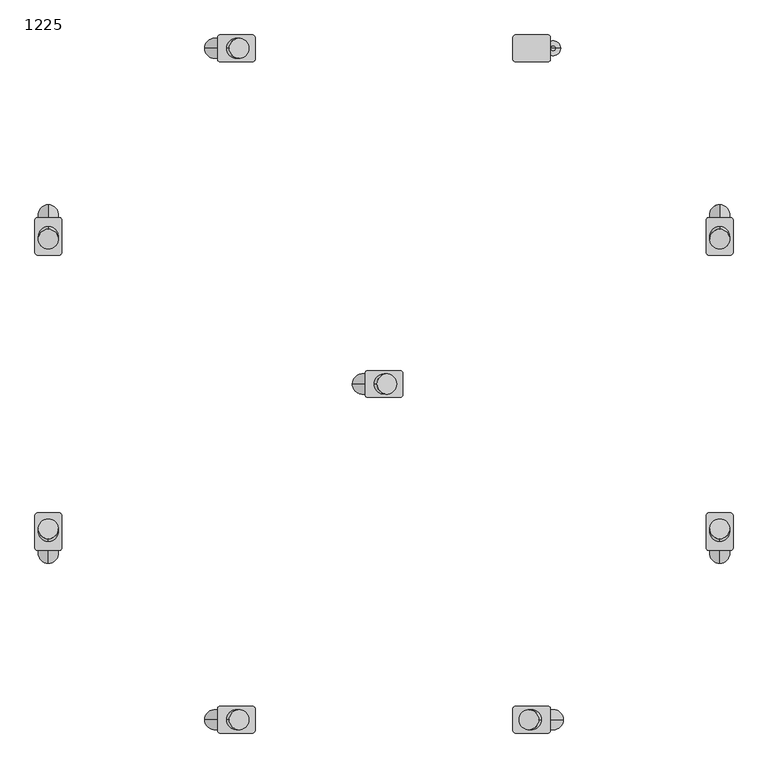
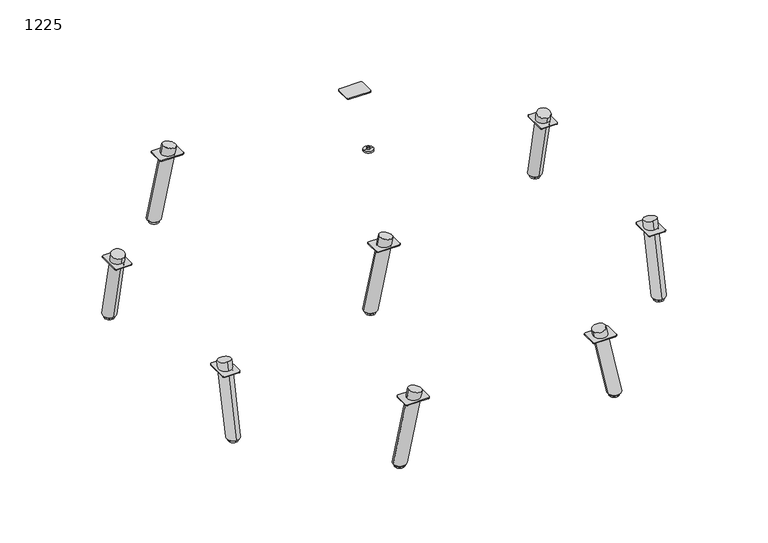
"""IFC4 building model written with IfcOpenShell, lengths in millimetres: furniture geometry, Laguna-Quattro_Backless-ERG : 1225."""

from ifc_helpers import new_model, si_unit, point, frame, frame_2d, origin, place, context, project, spatial, polyline, circle_curve, ellipse_curve, trimmed, segment, composite_curve, outline, extrude, source, transform, mapped, element, save
from ifc_brep_helpers import plane_surface, cylinder_surface, advanced_brep


def furniture_1225_1819fbd6(model_context):
    return source(origin(), model_context, "Body", "SolidModel", [
        advanced_brep(
        [(-4168.1218145, 774.9151303, 10.16), (-4207.0729912, 774.9151303, 10.16), (-4160.5866493, 774.9151303, 228.8610435), (-4123.3192258, 774.9151303, 220.9396081)],
        [
            (0, 1, ellipse_curve(frame((-4187.5974029, 774.9151303, 10.16), z_axis=(0.0, 0.0, -1.0), x_axis=(-0.9999999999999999, 0.0, 0.0)), 19.4755883, 19.05)),
            (1, 0, ellipse_curve(frame((-4187.5974029, 774.9151303, 10.16), z_axis=(0.0, 0.0, -1.0), x_axis=(-0.9999999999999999, 0.0, 0.0)), 19.4755883, 19.05)),
            (2, 3, circle_curve(frame((-4141.9529376, 774.9151303, 224.9003258), z_axis=(0.2079116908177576, 0.0, 0.9781476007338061), x_axis=(0.9781476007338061, 0.0, -0.2079116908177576)), 19.05)),
            (3, 2, circle_curve(frame((-4141.9529376, 774.9151303, 224.9003258), z_axis=(0.2079116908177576, 0.0, 0.9781476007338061), x_axis=(0.9781476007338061, 0.0, -0.2079116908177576)), 19.05)),
            (2, 1),
            (0, 3),
        ],
        [
            plane_surface(frame((-4962.2879997, 1591.847031, 10.16), z_axis=(0.0, 0.0, -1.0), x_axis=(-1.0, 0.0, 0.0))),
            plane_surface(frame((-4141.9529376, 774.9151303, 224.9003258), z_axis=(0.2079116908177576, 0.0, 0.9781476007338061), x_axis=(0.0, 1.0, 0.0))),
            cylinder_surface(frame((-4196.0827463, 774.9151303, -29.760402), z_axis=(-0.2079116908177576, 0.0, -0.9781476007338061), x_axis=(0.9781476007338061, 0.0, -0.2079116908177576)), 19.05),
        ],
        [
            (0, [[1, 2]]),
            (1, [[3, 4]]),
            (2, [[-3, 5, -1, 6]]),
            (2, [[-4, -6, -2, -5]]),
        ],
    ),
        extrude(outline(composite_curve([segment(trimmed(circle_curve(frame_2d((-4396.0253779, 1430.2351303)), 5.08), [point((-4396.0253779, 1435.3151303))], [point((-4390.9453779, 1430.2351303))], False, "CARTESIAN"), True, "CONTINUOUS"), segment(polyline([(-4390.9453779, 1430.2351303), (-4390.9453779, 1389.5951303)]), True, "CONTINUOUS"), segment(trimmed(circle_curve(frame_2d((-4396.0253779, 1389.5951303)), 5.08), [point((-4390.9453779, 1389.5951303))], [point((-4396.0253779, 1384.5151303))], False, "CARTESIAN"), True, "CONTINUOUS"), segment(polyline([(-4396.0253779, 1384.5151303), (-4456.9853779, 1384.5151303)]), True, "CONTINUOUS"), segment(trimmed(circle_curve(frame_2d((-4456.9853779, 1389.5951303)), 5.08), [point((-4456.9853779, 1384.5151303))], [point((-4462.0653779, 1389.5951303))], False, "CARTESIAN"), True, "CONTINUOUS"), segment(polyline([(-4462.0653779, 1389.5951303), (-4462.0653779, 1430.2351303)]), True, "CONTINUOUS"), segment(trimmed(circle_curve(frame_2d((-4456.9853779, 1430.2351303)), 5.08), [point((-4462.0653779, 1430.2351303))], [point((-4456.9853779, 1435.3151303))], False, "CARTESIAN"), True, "CONTINUOUS"), segment(polyline([(-4456.9853779, 1435.3151303), (-4396.0253779, 1435.3151303)]), True, "CONTINUOUS")], self_intersect=False)), frame((0.0, 0.0, 200.66), z_axis=(0.0, 0.0, 1.0), x_axis=(1.0, 0.0, 0.0)), (0.0, 0.0, 1.0), 2.54),
        extrude(outline(composite_curve([segment(polyline([(-3898.1853779, 1435.3151303), (-3837.2253779, 1435.3151303)]), True, "CONTINUOUS"), segment(trimmed(circle_curve(frame_2d((-3837.2253779, 1430.2351303)), 5.08), [point((-3837.2253779, 1435.3151303))], [point((-3832.1453779, 1430.2351303))], False, "CARTESIAN"), True, "CONTINUOUS"), segment(polyline([(-3832.1453779, 1430.2351303), (-3832.1453779, 1389.5951303)]), True, "CONTINUOUS"), segment(trimmed(circle_curve(frame_2d((-3837.2253779, 1389.5951303)), 5.08), [point((-3832.1453779, 1389.5951303))], [point((-3837.2253779, 1384.5151303))], False, "CARTESIAN"), True, "CONTINUOUS"), segment(polyline([(-3837.2253779, 1384.5151303), (-3898.1853779, 1384.5151303)]), True, "CONTINUOUS"), segment(trimmed(circle_curve(frame_2d((-3898.1853779, 1389.5951303)), 5.08), [point((-3898.1853779, 1384.5151303))], [point((-3903.2653779, 1389.5951303))], False, "CARTESIAN"), True, "CONTINUOUS"), segment(polyline([(-3903.2653779, 1389.5951303), (-3903.2653779, 1430.2351303)]), True, "CONTINUOUS"), segment(trimmed(circle_curve(frame_2d((-3898.1853779, 1430.2351303)), 5.08), [point((-3903.2653779, 1430.2351303))], [point((-3898.1853779, 1435.3151303))], False, "CARTESIAN"), True, "CONTINUOUS")], self_intersect=False)), frame((0.0, 0.0, 200.66), z_axis=(0.0, 0.0, 1.0), x_axis=(1.0, 0.0, 0.0)), (0.0, 0.0, 1.0), 2.54),
        extrude(outline(composite_curve([segment(polyline([(-4396.0253779, 114.5151303), (-4456.9853779, 114.5151303)]), True, "CONTINUOUS"), segment(trimmed(circle_curve(frame_2d((-4456.9853779, 119.5951303)), 5.08), [point((-4456.9853779, 114.5151303))], [point((-4462.0653779, 119.5951303))], False, "CARTESIAN"), True, "CONTINUOUS"), segment(polyline([(-4462.0653779, 119.5951303), (-4462.0653779, 160.2351303)]), True, "CONTINUOUS"), segment(trimmed(circle_curve(frame_2d((-4456.9853779, 160.2351303)), 5.08), [point((-4462.0653779, 160.2351303))], [point((-4456.9853779, 165.3151303))], False, "CARTESIAN"), True, "CONTINUOUS"), segment(polyline([(-4456.9853779, 165.3151303), (-4396.0253779, 165.3151303)]), True, "CONTINUOUS"), segment(trimmed(circle_curve(frame_2d((-4396.0253779, 160.2351303)), 5.08), [point((-4396.0253779, 165.3151303))], [point((-4390.9453779, 160.2351303))], False, "CARTESIAN"), True, "CONTINUOUS"), segment(polyline([(-4390.9453779, 160.2351303), (-4390.9453779, 119.5951303)]), True, "CONTINUOUS"), segment(trimmed(circle_curve(frame_2d((-4396.0253779, 119.5951303)), 5.08), [point((-4390.9453779, 119.5951303))], [point((-4396.0253779, 114.5151303))], False, "CARTESIAN"), True, "CONTINUOUS")], self_intersect=False)), frame((0.0, 0.0, 200.66), z_axis=(0.0, 0.0, 1.0), x_axis=(1.0, 0.0, 0.0)), (0.0, 0.0, 1.0), 2.54),
        extrude(outline(composite_curve([segment(trimmed(circle_curve(frame_2d((-3898.1853779, 119.5951303)), 5.08), [point((-3898.1853779, 114.5151303))], [point((-3903.2653779, 119.5951303))], False, "CARTESIAN"), True, "CONTINUOUS"), segment(polyline([(-3903.2653779, 119.5951303), (-3903.2653779, 160.2351303)]), True, "CONTINUOUS"), segment(trimmed(circle_curve(frame_2d((-3898.1853779, 160.2351303)), 5.08), [point((-3903.2653779, 160.2351303))], [point((-3898.1853779, 165.3151303))], False, "CARTESIAN"), True, "CONTINUOUS"), segment(polyline([(-3898.1853779, 165.3151303), (-3837.2253779, 165.3151303)]), True, "CONTINUOUS"), segment(trimmed(circle_curve(frame_2d((-3837.2253779, 160.2351303)), 5.08), [point((-3837.2253779, 165.3151303))], [point((-3832.1453779, 160.2351303))], False, "CARTESIAN"), True, "CONTINUOUS"), segment(polyline([(-3832.1453779, 160.2351303), (-3832.1453779, 119.5951303)]), True, "CONTINUOUS"), segment(trimmed(circle_curve(frame_2d((-3837.2253779, 119.5951303)), 5.08), [point((-3832.1453779, 119.5951303))], [point((-3837.2253779, 114.5151303))], False, "CARTESIAN"), True, "CONTINUOUS"), segment(polyline([(-3837.2253779, 114.5151303), (-3898.1853779, 114.5151303)]), True, "CONTINUOUS")], self_intersect=False)), frame((0.0, 0.0, 200.66), z_axis=(0.0, 0.0, 1.0), x_axis=(1.0, 0.0, 0.0)), (0.0, 0.0, 1.0), 2.54),
        extrude(outline(composite_curve([segment(trimmed(circle_curve(frame_2d((-3491.7853779, 1023.8351303)), 5.08), [point((-3486.7053779, 1023.8351303))], [point((-3491.7853779, 1018.7551303))], False, "CARTESIAN"), True, "CONTINUOUS"), segment(polyline([(-3491.7853779, 1018.7551303), (-3532.4253779, 1018.7551303)]), True, "CONTINUOUS"), segment(trimmed(circle_curve(frame_2d((-3532.4253779, 1023.8351303)), 5.08), [point((-3532.4253779, 1018.7551303))], [point((-3537.5053779, 1023.8351303))], False, "CARTESIAN"), True, "CONTINUOUS"), segment(polyline([(-3537.5053779, 1023.8351303), (-3537.5053779, 1084.7951303)]), True, "CONTINUOUS"), segment(trimmed(circle_curve(frame_2d((-3532.4253779, 1084.7951303)), 5.08), [point((-3537.5053779, 1084.7951303))], [point((-3532.4253779, 1089.8751303))], False, "CARTESIAN"), True, "CONTINUOUS"), segment(polyline([(-3532.4253779, 1089.8751303), (-3491.7853779, 1089.8751303)]), True, "CONTINUOUS"), segment(trimmed(circle_curve(frame_2d((-3491.7853779, 1084.7951303)), 5.08), [point((-3491.7853779, 1089.8751303))], [point((-3486.7053779, 1084.7951303))], False, "CARTESIAN"), True, "CONTINUOUS"), segment(polyline([(-3486.7053779, 1084.7951303), (-3486.7053779, 1023.8351303)]), True, "CONTINUOUS")], self_intersect=False)), frame((0.0, 0.0, 200.66), z_axis=(0.0, 0.0, 1.0), x_axis=(1.0, 0.0, 0.0)), (0.0, 0.0, 1.0), 2.54),
        extrude(outline(composite_curve([segment(polyline([(-3486.7053779, 525.9951303), (-3486.7053779, 465.0351303)]), True, "CONTINUOUS"), segment(trimmed(circle_curve(frame_2d((-3491.7853779, 465.0351303)), 5.08), [point((-3486.7053779, 465.0351303))], [point((-3491.7853779, 459.9551303))], False, "CARTESIAN"), True, "CONTINUOUS"), segment(polyline([(-3491.7853779, 459.9551303), (-3532.4253779, 459.9551303)]), True, "CONTINUOUS"), segment(trimmed(circle_curve(frame_2d((-3532.4253779, 465.0351303)), 5.08), [point((-3532.4253779, 459.9551303))], [point((-3537.5053779, 465.0351303))], False, "CARTESIAN"), True, "CONTINUOUS"), segment(polyline([(-3537.5053779, 465.0351303), (-3537.5053779, 525.9951303)]), True, "CONTINUOUS"), segment(trimmed(circle_curve(frame_2d((-3532.4253779, 525.9951303)), 5.08), [point((-3537.5053779, 525.9951303))], [point((-3532.4253779, 531.0751303))], False, "CARTESIAN"), True, "CONTINUOUS"), segment(polyline([(-3532.4253779, 531.0751303), (-3491.7853779, 531.0751303)]), True, "CONTINUOUS"), segment(trimmed(circle_curve(frame_2d((-3491.7853779, 525.9951303)), 5.08), [point((-3491.7853779, 531.0751303))], [point((-3486.7053779, 525.9951303))], False, "CARTESIAN"), True, "CONTINUOUS")], self_intersect=False)), frame((0.0, 0.0, 200.66), z_axis=(0.0, 0.0, 1.0), x_axis=(1.0, 0.0, 0.0)), (0.0, 0.0, 1.0), 2.54),
        extrude(outline(composite_curve([segment(polyline([(-4807.5053779, 1023.8351303), (-4807.5053779, 1084.7951303)]), True, "CONTINUOUS"), segment(trimmed(circle_curve(frame_2d((-4802.4253779, 1084.7951303)), 5.08), [point((-4807.5053779, 1084.7951303))], [point((-4802.4253779, 1089.8751303))], False, "CARTESIAN"), True, "CONTINUOUS"), segment(polyline([(-4802.4253779, 1089.8751303), (-4761.7853779, 1089.8751303)]), True, "CONTINUOUS"), segment(trimmed(circle_curve(frame_2d((-4761.7853779, 1084.7951303)), 5.08), [point((-4761.7853779, 1089.8751303))], [point((-4756.7053779, 1084.7951303))], False, "CARTESIAN"), True, "CONTINUOUS"), segment(polyline([(-4756.7053779, 1084.7951303), (-4756.7053779, 1023.8351303)]), True, "CONTINUOUS"), segment(trimmed(circle_curve(frame_2d((-4761.7853779, 1023.8351303)), 5.08), [point((-4756.7053779, 1023.8351303))], [point((-4761.7853779, 1018.7551303))], False, "CARTESIAN"), True, "CONTINUOUS"), segment(polyline([(-4761.7853779, 1018.7551303), (-4802.4253779, 1018.7551303)]), True, "CONTINUOUS"), segment(trimmed(circle_curve(frame_2d((-4802.4253779, 1023.8351303)), 5.08), [point((-4802.4253779, 1018.7551303))], [point((-4807.5053779, 1023.8351303))], False, "CARTESIAN"), True, "CONTINUOUS")], self_intersect=False)), frame((0.0, 0.0, 200.66), z_axis=(0.0, 0.0, 1.0), x_axis=(1.0, 0.0, 0.0)), (0.0, 0.0, 1.0), 2.54),
        extrude(outline(composite_curve([segment(trimmed(circle_curve(frame_2d((-4802.4253779, 525.9951303)), 5.08), [point((-4807.5053779, 525.9951303))], [point((-4802.4253779, 531.0751303))], False, "CARTESIAN"), True, "CONTINUOUS"), segment(polyline([(-4802.4253779, 531.0751303), (-4761.7853779, 531.0751303)]), True, "CONTINUOUS"), segment(trimmed(circle_curve(frame_2d((-4761.7853779, 525.9951303)), 5.08), [point((-4761.7853779, 531.0751303))], [point((-4756.7053779, 525.9951303))], False, "CARTESIAN"), True, "CONTINUOUS"), segment(polyline([(-4756.7053779, 525.9951303), (-4756.7053779, 465.0351303)]), True, "CONTINUOUS"), segment(trimmed(circle_curve(frame_2d((-4761.7853779, 465.0351303)), 5.08), [point((-4756.7053779, 465.0351303))], [point((-4761.7853779, 459.9551303))], False, "CARTESIAN"), True, "CONTINUOUS"), segment(polyline([(-4761.7853779, 459.9551303), (-4802.4253779, 459.9551303)]), True, "CONTINUOUS"), segment(trimmed(circle_curve(frame_2d((-4802.4253779, 465.0351303)), 5.08), [point((-4802.4253779, 459.9551303))], [point((-4807.5053779, 465.0351303))], False, "CARTESIAN"), True, "CONTINUOUS"), segment(polyline([(-4807.5053779, 465.0351303), (-4807.5053779, 525.9951303)]), True, "CONTINUOUS")], self_intersect=False)), frame((0.0, 0.0, 200.66), z_axis=(0.0, 0.0, 1.0), x_axis=(1.0, 0.0, 0.0)), (0.0, 0.0, 1.0), 2.54),
        extrude(outline(composite_curve([segment(trimmed(circle_curve(frame_2d((-4116.6253779, 795.2351303)), 5.08), [point((-4116.6253779, 800.3151303))], [point((-4111.5453779, 795.2351303))], False, "CARTESIAN"), True, "CONTINUOUS"), segment(polyline([(-4111.5453779, 795.2351303), (-4111.5453779, 754.5951303)]), True, "CONTINUOUS"), segment(trimmed(circle_curve(frame_2d((-4116.6253779, 754.5951303)), 5.08), [point((-4111.5453779, 754.5951303))], [point((-4116.6253779, 749.5151303))], False, "CARTESIAN"), True, "CONTINUOUS"), segment(polyline([(-4116.6253779, 749.5151303), (-4177.5853779, 749.5151303)]), True, "CONTINUOUS"), segment(trimmed(circle_curve(frame_2d((-4177.5853779, 754.5951303)), 5.08), [point((-4177.5853779, 749.5151303))], [point((-4182.6653779, 754.5951303))], False, "CARTESIAN"), True, "CONTINUOUS"), segment(polyline([(-4182.6653779, 754.5951303), (-4182.6653779, 795.2351303)]), True, "CONTINUOUS"), segment(trimmed(circle_curve(frame_2d((-4177.5853779, 795.2351303)), 5.08), [point((-4182.6653779, 795.2351303))], [point((-4177.5853779, 800.3151303))], False, "CARTESIAN"), True, "CONTINUOUS"), segment(polyline([(-4177.5853779, 800.3151303), (-4116.6253779, 800.3151303)]), True, "CONTINUOUS")], self_intersect=False)), frame((0.0, 0.0, 200.66), z_axis=(0.0, 0.0, 1.0), x_axis=(1.0, 0.0, 0.0)), (0.0, 0.0, 1.0), 2.54),
        advanced_brep(
        [(-4187.5974029, 774.9151303, 10.16), (-4187.5974029, 779.1581785, 10.16), (-4187.5974029, 770.6720822, 10.16), (-4187.5974029, 760.8367769, 0.0), (-4187.5974029, 788.9934838, 0.0), (-4187.5974029, 774.9151303, 0.0), (-4187.5974029, 760.8367769, 3.9615026), (-4187.5974029, 788.9934838, 3.9615026), (-4187.5974029, 770.6720822, 3.9615026), (-4187.5974029, 779.1581785, 3.9615026)],
        [
            (0, 1),
            (1, 2, circle_curve(frame((-4187.5974029, 774.9151303, 10.16), z_axis=(0.0, 0.0, 1.0), x_axis=(0.0, 1.0, 0.0)), 4.2430482)),
            (2, 0),
            (2, 1, circle_curve(frame((-4187.5974029, 774.9151303, 10.16), z_axis=(0.0, 0.0, 1.0), x_axis=(0.0, 1.0, 0.0)), 4.2430482)),
            (3, 4, circle_curve(frame((-4187.5974029, 774.9151303, 0.0), z_axis=(0.0, 0.0, -1.0), x_axis=(0.0, 1.0, 0.0)), 14.0783534)),
            (4, 5),
            (5, 3),
            (4, 3, circle_curve(frame((-4187.5974029, 774.9151303, 0.0), z_axis=(0.0, 0.0, -1.0), x_axis=(0.0, 1.0, 0.0)), 14.0783534)),
            (6, 7, circle_curve(frame((-4187.5974029, 774.9151303, 3.9615026), z_axis=(0.0, 0.0, -1.0), x_axis=(0.0, 1.0, 0.0)), 14.0783534)),
            (7, 4),
            (3, 6),
            (7, 6, circle_curve(frame((-4187.5974029, 774.9151303, 3.9615026), z_axis=(0.0, 0.0, -1.0), x_axis=(0.0, 1.0, 0.0)), 14.0783534)),
            (8, 9, circle_curve(frame((-4187.5974029, 774.9151303, 3.9615026), z_axis=(0.0, 0.0, -1.0), x_axis=(0.0, 1.0, 0.0)), 4.2430482)),
            (9, 7),
            (6, 8),
            (9, 8, circle_curve(frame((-4187.5974029, 774.9151303, 3.9615026), z_axis=(0.0, 0.0, -1.0), x_axis=(0.0, 1.0, 0.0)), 4.2430482)),
            (1, 9),
            (8, 2),
        ],
        [
            plane_surface(frame((-4187.5974029, 774.9151303, 10.16), z_axis=(0.0, 0.0, 1.0), x_axis=(0.0, 1.0, 0.0))),
            plane_surface(frame((-4187.5974029, 774.9151303, 0.0), z_axis=(0.0, 0.0, -1.0), x_axis=(0.0, 1.0, 0.0))),
            cylinder_surface(frame((-4187.5974029, 774.9151303, 10.16), z_axis=(0.0, 0.0, 1.0), x_axis=(0.0, 1.0, 0.0)), 14.0783534),
            plane_surface(frame((-4187.5974029, 774.9151303, 3.9615026), z_axis=(0.0, 0.0, 1.0), x_axis=(0.0, 1.0, 0.0))),
            cylinder_surface(frame((-4187.5974029, 774.9151303, 10.16), z_axis=(0.0, 0.0, 1.0), x_axis=(0.0, 1.0, 0.0)), 4.2430482),
        ],
        [
            (0, [[1, 2, 3]]),
            (0, [[-3, 4, -1]]),
            (1, [[5, 6, 7]]),
            (1, [[8, -7, -6]]),
            (2, [[9, 10, -5, 11]]),
            (2, [[12, -11, -8, -10]]),
            (3, [[13, 14, -9, 15]]),
            (3, [[16, -15, -12, -14]]),
            (4, [[-2, 17, -13, 18]]),
            (4, [[-4, -18, -16, -17]]),
        ],
    ),
        advanced_brep(
        [(-4782.1053779, 1094.8071553, 10.16), (-4782.1053779, 1090.5641072, 10.16), (-4782.1053779, 1099.0502035, 10.16), (-4782.1053779, 1108.8855088, 0.0), (-4782.1053779, 1080.7288019, 0.0), (-4782.1053779, 1094.8071553, 0.0), (-4782.1053779, 1108.8855088, 3.9615026), (-4782.1053779, 1080.7288019, 3.9615026), (-4782.1053779, 1099.0502035, 3.9615026), (-4782.1053779, 1090.5641072, 3.9615026)],
        [
            (0, 1),
            (1, 2, circle_curve(frame((-4782.1053779, 1094.8071553, 10.16), z_axis=(0.0, 0.0, 1.0), x_axis=(0.0, -1.0, 0.0)), 4.2430482)),
            (2, 0),
            (2, 1, circle_curve(frame((-4782.1053779, 1094.8071553, 10.16), z_axis=(0.0, 0.0, 1.0), x_axis=(0.0, -1.0, 0.0)), 4.2430482)),
            (3, 4, circle_curve(frame((-4782.1053779, 1094.8071553, 0.0), z_axis=(0.0, 0.0, -1.0), x_axis=(0.0, -1.0, 0.0)), 14.0783534)),
            (4, 5),
            (5, 3),
            (4, 3, circle_curve(frame((-4782.1053779, 1094.8071553, 0.0), z_axis=(0.0, 0.0, -1.0), x_axis=(0.0, -1.0, 0.0)), 14.0783534)),
            (6, 7, circle_curve(frame((-4782.1053779, 1094.8071553, 3.9615026), z_axis=(0.0, 0.0, -1.0), x_axis=(0.0, -1.0, 0.0)), 14.0783534)),
            (7, 4),
            (3, 6),
            (7, 6, circle_curve(frame((-4782.1053779, 1094.8071553, 3.9615026), z_axis=(0.0, 0.0, -1.0), x_axis=(0.0, -1.0, 0.0)), 14.0783534)),
            (8, 9, circle_curve(frame((-4782.1053779, 1094.8071553, 3.9615026), z_axis=(0.0, 0.0, -1.0), x_axis=(0.0, -1.0, 0.0)), 4.2430482)),
            (9, 7),
            (6, 8),
            (9, 8, circle_curve(frame((-4782.1053779, 1094.8071553, 3.9615026), z_axis=(0.0, 0.0, -1.0), x_axis=(0.0, -1.0, 0.0)), 4.2430482)),
            (1, 9),
            (8, 2),
        ],
        [
            plane_surface(frame((-4782.1053779, 1094.8071553, 10.16), z_axis=(0.0, 0.0, 1.0), x_axis=(0.0, -1.0, 0.0))),
            plane_surface(frame((-4782.1053779, 1094.8071553, 0.0), z_axis=(0.0, 0.0, -1.0), x_axis=(0.0, -1.0, 0.0))),
            cylinder_surface(frame((-4782.1053779, 1094.8071553, 10.16), z_axis=(0.0, 0.0, 1.0), x_axis=(0.0, -1.0, 0.0)), 14.0783534),
            plane_surface(frame((-4782.1053779, 1094.8071553, 3.9615026), z_axis=(0.0, 0.0, 1.0), x_axis=(0.0, -1.0, 0.0))),
            cylinder_surface(frame((-4782.1053779, 1094.8071553, 10.16), z_axis=(0.0, 0.0, 1.0), x_axis=(0.0, -1.0, 0.0)), 4.2430482),
        ],
        [
            (0, [[1, 2, 3]]),
            (0, [[-3, 4, -1]]),
            (1, [[5, 6, 7]]),
            (1, [[8, -7, -6]]),
            (2, [[9, 10, -5, 11]]),
            (2, [[12, -11, -8, -10]]),
            (3, [[13, 14, -9, 15]]),
            (3, [[16, -15, -12, -14]]),
            (4, [[-2, 17, -13, 18]]),
            (4, [[-4, -18, -16, -17]]),
        ],
    ),
        advanced_brep(
        [(-4782.1053779, 450.7800572, 10.16), (-4782.1053779, 459.2661535, 10.16), (-4782.1053779, 455.0231053, 10.16), (-4782.1053779, 455.0231053, 0.0), (-4782.1053779, 469.1014588, 0.0), (-4782.1053779, 440.9447519, 0.0), (-4782.1053779, 469.1014588, 3.9615026), (-4782.1053779, 440.9447519, 3.9615026), (-4782.1053779, 459.2661535, 3.9615026), (-4782.1053779, 450.7800572, 3.9615026)],
        [
            (0, 1, circle_curve(frame((-4782.1053779, 455.0231053, 10.16), z_axis=(0.0, 0.0, 1.0), x_axis=(0.0, 1.0, 0.0)), 4.2430482)),
            (1, 2),
            (2, 0),
            (1, 0, circle_curve(frame((-4782.1053779, 455.0231053, 10.16), z_axis=(0.0, 0.0, 1.0), x_axis=(0.0, 1.0, 0.0)), 4.2430482)),
            (3, 4),
            (4, 5, circle_curve(frame((-4782.1053779, 455.0231053, 0.0), z_axis=(0.0, 0.0, -1.0), x_axis=(0.0, 1.0, 0.0)), 14.0783534)),
            (5, 3),
            (5, 4, circle_curve(frame((-4782.1053779, 455.0231053, 0.0), z_axis=(0.0, 0.0, -1.0), x_axis=(0.0, 1.0, 0.0)), 14.0783534)),
            (4, 6),
            (6, 7, circle_curve(frame((-4782.1053779, 455.0231053, 3.9615026), z_axis=(0.0, 0.0, -1.0), x_axis=(0.0, 1.0, 0.0)), 14.0783534)),
            (7, 5),
            (7, 6, circle_curve(frame((-4782.1053779, 455.0231053, 3.9615026), z_axis=(0.0, 0.0, -1.0), x_axis=(0.0, 1.0, 0.0)), 14.0783534)),
            (6, 8),
            (8, 9, circle_curve(frame((-4782.1053779, 455.0231053, 3.9615026), z_axis=(0.0, 0.0, -1.0), x_axis=(0.0, 1.0, 0.0)), 4.2430482)),
            (9, 7),
            (9, 8, circle_curve(frame((-4782.1053779, 455.0231053, 3.9615026), z_axis=(0.0, 0.0, -1.0), x_axis=(0.0, 1.0, 0.0)), 4.2430482)),
            (8, 1),
            (0, 9),
        ],
        [
            plane_surface(frame((-4782.1053779, 455.0231053, 10.16), z_axis=(0.0, 0.0, 1.0), x_axis=(0.0, 1.0, 0.0))),
            plane_surface(frame((-4782.1053779, 455.0231053, 0.0), z_axis=(0.0, 0.0, -1.0), x_axis=(0.0, 1.0, 0.0))),
            cylinder_surface(frame((-4782.1053779, 455.0231053, 10.16), z_axis=(0.0, 0.0, -1.0), x_axis=(0.0, 1.0, 0.0)), 14.0783534),
            plane_surface(frame((-4782.1053779, 455.0231053, 3.9615026), z_axis=(0.0, 0.0, 1.0), x_axis=(0.0, 1.0, 0.0))),
            cylinder_surface(frame((-4782.1053779, 455.0231053, 10.16), z_axis=(0.0, 0.0, -1.0), x_axis=(0.0, 1.0, 0.0)), 4.2430482),
        ],
        [
            (0, [[1, 2, 3]]),
            (0, [[4, -3, -2]]),
            (1, [[5, 6, 7]]),
            (1, [[-7, 8, -5]]),
            (2, [[-6, 9, 10, 11]]),
            (2, [[-8, -11, 12, -9]]),
            (3, [[-10, 13, 14, 15]]),
            (3, [[-12, -15, 16, -13]]),
            (4, [[-14, 17, -1, 18]]),
            (4, [[-16, -18, -4, -17]]),
        ],
    ),
        advanced_brep(
        [(-3512.1053779, 1099.0502035, 10.16), (-3512.1053779, 1090.5641072, 10.16), (-3512.1053779, 1094.8071553, 10.16), (-3512.1053779, 1094.8071553, 0.0), (-3512.1053779, 1080.7288019, 0.0), (-3512.1053779, 1108.8855088, 0.0), (-3512.1053779, 1080.7288019, 3.9615026), (-3512.1053779, 1108.8855088, 3.9615026), (-3512.1053779, 1090.5641072, 3.9615026), (-3512.1053779, 1099.0502035, 3.9615026)],
        [
            (0, 1, circle_curve(frame((-3512.1053779, 1094.8071553, 10.16), z_axis=(0.0, 0.0, 1.0), x_axis=(0.0, -1.0, 0.0)), 4.2430482)),
            (1, 2),
            (2, 0),
            (1, 0, circle_curve(frame((-3512.1053779, 1094.8071553, 10.16), z_axis=(0.0, 0.0, 1.0), x_axis=(0.0, -1.0, 0.0)), 4.2430482)),
            (3, 4),
            (4, 5, circle_curve(frame((-3512.1053779, 1094.8071553, 0.0), z_axis=(0.0, 0.0, -1.0), x_axis=(0.0, -1.0, 0.0)), 14.0783534)),
            (5, 3),
            (5, 4, circle_curve(frame((-3512.1053779, 1094.8071553, 0.0), z_axis=(0.0, 0.0, -1.0), x_axis=(0.0, -1.0, 0.0)), 14.0783534)),
            (4, 6),
            (6, 7, circle_curve(frame((-3512.1053779, 1094.8071553, 3.9615026), z_axis=(0.0, 0.0, -1.0), x_axis=(0.0, -1.0, 0.0)), 14.0783534)),
            (7, 5),
            (7, 6, circle_curve(frame((-3512.1053779, 1094.8071553, 3.9615026), z_axis=(0.0, 0.0, -1.0), x_axis=(0.0, -1.0, 0.0)), 14.0783534)),
            (6, 8),
            (8, 9, circle_curve(frame((-3512.1053779, 1094.8071553, 3.9615026), z_axis=(0.0, 0.0, -1.0), x_axis=(0.0, -1.0, 0.0)), 4.2430482)),
            (9, 7),
            (9, 8, circle_curve(frame((-3512.1053779, 1094.8071553, 3.9615026), z_axis=(0.0, 0.0, -1.0), x_axis=(0.0, -1.0, 0.0)), 4.2430482)),
            (8, 1),
            (0, 9),
        ],
        [
            plane_surface(frame((-3512.1053779, 1094.8071553, 10.16), z_axis=(0.0, 0.0, 1.0), x_axis=(0.0, -1.0, 0.0))),
            plane_surface(frame((-3512.1053779, 1094.8071553, 0.0), z_axis=(0.0, 0.0, -1.0), x_axis=(0.0, -1.0, 0.0))),
            cylinder_surface(frame((-3512.1053779, 1094.8071553, 10.16), z_axis=(0.0, 0.0, -1.0), x_axis=(0.0, -1.0, 0.0)), 14.0783534),
            plane_surface(frame((-3512.1053779, 1094.8071553, 3.9615026), z_axis=(0.0, 0.0, 1.0), x_axis=(0.0, -1.0, 0.0))),
            cylinder_surface(frame((-3512.1053779, 1094.8071553, 10.16), z_axis=(0.0, 0.0, -1.0), x_axis=(0.0, -1.0, 0.0)), 4.2430482),
        ],
        [
            (0, [[1, 2, 3]]),
            (0, [[4, -3, -2]]),
            (1, [[5, 6, 7]]),
            (1, [[-7, 8, -5]]),
            (2, [[-6, 9, 10, 11]]),
            (2, [[-8, -11, 12, -9]]),
            (3, [[-10, 13, 14, 15]]),
            (3, [[-12, -15, 16, -13]]),
            (4, [[-14, 17, -1, 18]]),
            (4, [[-16, -18, -4, -17]]),
        ],
    ),
        advanced_brep(
        [(-3512.1053779, 455.0231053, 10.16), (-3512.1053779, 459.2661535, 10.16), (-3512.1053779, 450.7800572, 10.16), (-3512.1053779, 440.9447519, 0.0), (-3512.1053779, 469.1014588, 0.0), (-3512.1053779, 455.0231053, 0.0), (-3512.1053779, 440.9447519, 3.9615026), (-3512.1053779, 469.1014588, 3.9615026), (-3512.1053779, 450.7800572, 3.9615026), (-3512.1053779, 459.2661535, 3.9615026)],
        [
            (0, 1),
            (1, 2, circle_curve(frame((-3512.1053779, 455.0231053, 10.16), z_axis=(0.0, 0.0, 1.0), x_axis=(0.0, 1.0, 0.0)), 4.2430482)),
            (2, 0),
            (2, 1, circle_curve(frame((-3512.1053779, 455.0231053, 10.16), z_axis=(0.0, 0.0, 1.0), x_axis=(0.0, 1.0, 0.0)), 4.2430482)),
            (3, 4, circle_curve(frame((-3512.1053779, 455.0231053, 0.0), z_axis=(0.0, 0.0, -1.0), x_axis=(0.0, 1.0, 0.0)), 14.0783534)),
            (4, 5),
            (5, 3),
            (4, 3, circle_curve(frame((-3512.1053779, 455.0231053, 0.0), z_axis=(0.0, 0.0, -1.0), x_axis=(0.0, 1.0, 0.0)), 14.0783534)),
            (6, 7, circle_curve(frame((-3512.1053779, 455.0231053, 3.9615026), z_axis=(0.0, 0.0, -1.0), x_axis=(0.0, 1.0, 0.0)), 14.0783534)),
            (7, 4),
            (3, 6),
            (7, 6, circle_curve(frame((-3512.1053779, 455.0231053, 3.9615026), z_axis=(0.0, 0.0, -1.0), x_axis=(0.0, 1.0, 0.0)), 14.0783534)),
            (8, 9, circle_curve(frame((-3512.1053779, 455.0231053, 3.9615026), z_axis=(0.0, 0.0, -1.0), x_axis=(0.0, 1.0, 0.0)), 4.2430482)),
            (9, 7),
            (6, 8),
            (9, 8, circle_curve(frame((-3512.1053779, 455.0231053, 3.9615026), z_axis=(0.0, 0.0, -1.0), x_axis=(0.0, 1.0, 0.0)), 4.2430482)),
            (1, 9),
            (8, 2),
        ],
        [
            plane_surface(frame((-3512.1053779, 455.0231053, 10.16), z_axis=(0.0, 0.0, 1.0), x_axis=(0.0, 1.0, 0.0))),
            plane_surface(frame((-3512.1053779, 455.0231053, 0.0), z_axis=(0.0, 0.0, -1.0), x_axis=(0.0, 1.0, 0.0))),
            cylinder_surface(frame((-3512.1053779, 455.0231053, 10.16), z_axis=(0.0, 0.0, 1.0), x_axis=(0.0, 1.0, 0.0)), 14.0783534),
            plane_surface(frame((-3512.1053779, 455.0231053, 3.9615026), z_axis=(0.0, 0.0, 1.0), x_axis=(0.0, 1.0, 0.0))),
            cylinder_surface(frame((-3512.1053779, 455.0231053, 10.16), z_axis=(0.0, 0.0, 1.0), x_axis=(0.0, 1.0, 0.0)), 4.2430482),
        ],
        [
            (0, [[1, 2, 3]]),
            (0, [[-3, 4, -1]]),
            (1, [[5, 6, 7]]),
            (1, [[8, -7, -6]]),
            (2, [[9, 10, -5, 11]]),
            (2, [[12, -11, -8, -10]]),
            (3, [[13, 14, -9, 15]]),
            (3, [[16, -15, -12, -14]]),
            (4, [[-2, 17, -13, 18]]),
            (4, [[-4, -18, -16, -17]]),
        ],
    ),
        advanced_brep(
        [(-4466.9974029, 139.9151303, 10.16), (-4462.7543547, 139.9151303, 10.16), (-4471.240451, 139.9151303, 10.16), (-4481.0757563, 139.9151303, 0.0), (-4452.9190494, 139.9151303, 0.0), (-4466.9974029, 139.9151303, 0.0), (-4481.0757563, 139.9151303, 3.9615026), (-4452.9190494, 139.9151303, 3.9615026), (-4471.240451, 139.9151303, 3.9615026), (-4462.7543547, 139.9151303, 3.9615026)],
        [
            (0, 1),
            (1, 2, circle_curve(frame((-4466.9974029, 139.9151303, 10.16), z_axis=(0.0, 0.0, 1.0), x_axis=(1.0, 0.0, 0.0)), 4.2430482)),
            (2, 0),
            (2, 1, circle_curve(frame((-4466.9974029, 139.9151303, 10.16), z_axis=(0.0, 0.0, 1.0), x_axis=(1.0, 0.0, 0.0)), 4.2430482)),
            (3, 4, circle_curve(frame((-4466.9974029, 139.9151303, 0.0), z_axis=(0.0, 0.0, -1.0), x_axis=(1.0, 0.0, 0.0)), 14.0783534)),
            (4, 5),
            (5, 3),
            (4, 3, circle_curve(frame((-4466.9974029, 139.9151303, 0.0), z_axis=(0.0, 0.0, -1.0), x_axis=(1.0, 0.0, 0.0)), 14.0783534)),
            (6, 7, circle_curve(frame((-4466.9974029, 139.9151303, 3.9615026), z_axis=(0.0, 0.0, -1.0), x_axis=(1.0, 0.0, 0.0)), 14.0783534)),
            (7, 4),
            (3, 6),
            (7, 6, circle_curve(frame((-4466.9974029, 139.9151303, 3.9615026), z_axis=(0.0, 0.0, -1.0), x_axis=(1.0, 0.0, 0.0)), 14.0783534)),
            (8, 9, circle_curve(frame((-4466.9974029, 139.9151303, 3.9615026), z_axis=(0.0, 0.0, -1.0), x_axis=(1.0, 0.0, 0.0)), 4.2430482)),
            (9, 7),
            (6, 8),
            (9, 8, circle_curve(frame((-4466.9974029, 139.9151303, 3.9615026), z_axis=(0.0, 0.0, -1.0), x_axis=(1.0, 0.0, 0.0)), 4.2430482)),
            (1, 9),
            (8, 2),
        ],
        [
            plane_surface(frame((-4466.9974029, 139.9151303, 10.16), z_axis=(0.0, 0.0, 1.0), x_axis=(1.0, 0.0, 0.0))),
            plane_surface(frame((-4466.9974029, 139.9151303, 0.0), z_axis=(0.0, 0.0, -1.0), x_axis=(1.0, 0.0, 0.0))),
            cylinder_surface(frame((-4466.9974029, 139.9151303, 10.16), z_axis=(0.0, 0.0, 1.0), x_axis=(1.0, 0.0, 0.0)), 14.0783534),
            plane_surface(frame((-4466.9974029, 139.9151303, 3.9615026), z_axis=(0.0, 0.0, 1.0), x_axis=(1.0, 0.0, 0.0))),
            cylinder_surface(frame((-4466.9974029, 139.9151303, 10.16), z_axis=(0.0, 0.0, 1.0), x_axis=(1.0, 0.0, 0.0)), 4.2430482),
        ],
        [
            (0, [[1, 2, 3]]),
            (0, [[-3, 4, -1]]),
            (1, [[5, 6, 7]]),
            (1, [[8, -7, -6]]),
            (2, [[9, 10, -5, 11]]),
            (2, [[12, -11, -8, -10]]),
            (3, [[13, 14, -9, 15]]),
            (3, [[16, -15, -12, -14]]),
            (4, [[-2, 17, -13, 18]]),
            (4, [[-4, -18, -16, -17]]),
        ],
    ),
        advanced_brep(
        [(-3822.9703047, 139.9151303, 10.16), (-3831.456401, 139.9151303, 10.16), (-3827.2133529, 139.9151303, 10.16), (-3827.2133529, 139.9151303, 0.0), (-3841.2917063, 139.9151303, 0.0), (-3813.1349994, 139.9151303, 0.0), (-3841.2917063, 139.9151303, 3.9615026), (-3813.1349994, 139.9151303, 3.9615026), (-3831.456401, 139.9151303, 3.9615026), (-3822.9703047, 139.9151303, 3.9615026)],
        [
            (0, 1, circle_curve(frame((-3827.2133529, 139.9151303, 10.16), z_axis=(0.0, 0.0, 1.0), x_axis=(-1.0, 0.0, 0.0)), 4.2430482)),
            (1, 2),
            (2, 0),
            (1, 0, circle_curve(frame((-3827.2133529, 139.9151303, 10.16), z_axis=(0.0, 0.0, 1.0), x_axis=(-1.0, 0.0, 0.0)), 4.2430482)),
            (3, 4),
            (4, 5, circle_curve(frame((-3827.2133529, 139.9151303, 0.0), z_axis=(0.0, 0.0, -1.0), x_axis=(-1.0, 0.0, 0.0)), 14.0783534)),
            (5, 3),
            (5, 4, circle_curve(frame((-3827.2133529, 139.9151303, 0.0), z_axis=(0.0, 0.0, -1.0), x_axis=(-1.0, 0.0, 0.0)), 14.0783534)),
            (4, 6),
            (6, 7, circle_curve(frame((-3827.2133529, 139.9151303, 3.9615026), z_axis=(0.0, 0.0, -1.0), x_axis=(-1.0, 0.0, 0.0)), 14.0783534)),
            (7, 5),
            (7, 6, circle_curve(frame((-3827.2133529, 139.9151303, 3.9615026), z_axis=(0.0, 0.0, -1.0), x_axis=(-1.0, 0.0, 0.0)), 14.0783534)),
            (6, 8),
            (8, 9, circle_curve(frame((-3827.2133529, 139.9151303, 3.9615026), z_axis=(0.0, 0.0, -1.0), x_axis=(-1.0, 0.0, 0.0)), 4.2430482)),
            (9, 7),
            (9, 8, circle_curve(frame((-3827.2133529, 139.9151303, 3.9615026), z_axis=(0.0, 0.0, -1.0), x_axis=(-1.0, 0.0, 0.0)), 4.2430482)),
            (8, 1),
            (0, 9),
        ],
        [
            plane_surface(frame((-3827.2133529, 139.9151303, 10.16), z_axis=(0.0, 0.0, 1.0), x_axis=(-1.0, 0.0, 0.0))),
            plane_surface(frame((-3827.2133529, 139.9151303, 0.0), z_axis=(0.0, 0.0, -1.0), x_axis=(-1.0, 0.0, 0.0))),
            cylinder_surface(frame((-3827.2133529, 139.9151303, 10.16), z_axis=(0.0, 0.0, -1.0), x_axis=(-1.0, 0.0, 0.0)), 14.0783534),
            plane_surface(frame((-3827.2133529, 139.9151303, 3.9615026), z_axis=(0.0, 0.0, 1.0), x_axis=(-1.0, 0.0, 0.0))),
            cylinder_surface(frame((-3827.2133529, 139.9151303, 10.16), z_axis=(0.0, 0.0, -1.0), x_axis=(-1.0, 0.0, 0.0)), 4.2430482),
        ],
        [
            (0, [[1, 2, 3]]),
            (0, [[4, -3, -2]]),
            (1, [[5, 6, 7]]),
            (1, [[-7, 8, -5]]),
            (2, [[-6, 9, 10, 11]]),
            (2, [[-8, -11, 12, -9]]),
            (3, [[-10, 13, 14, 15]]),
            (3, [[-12, -15, 16, -13]]),
            (4, [[-14, 17, -1, 18]]),
            (4, [[-16, -18, -4, -17]]),
        ],
    ),
        advanced_brep(
        [(-4471.240451, 1409.9151303, 10.16), (-4462.7543547, 1409.9151303, 10.16), (-4466.9974029, 1409.9151303, 10.16), (-4466.9974029, 1409.9151303, 0.0), (-4452.9190494, 1409.9151303, 0.0), (-4481.0757563, 1409.9151303, 0.0), (-4452.9190494, 1409.9151303, 3.9615026), (-4481.0757563, 1409.9151303, 3.9615026), (-4462.7543547, 1409.9151303, 3.9615026), (-4471.240451, 1409.9151303, 3.9615026)],
        [
            (0, 1, circle_curve(frame((-4466.9974029, 1409.9151303, 10.16), z_axis=(0.0, 0.0, 1.0), x_axis=(1.0, 0.0, 0.0)), 4.2430482)),
            (1, 2),
            (2, 0),
            (1, 0, circle_curve(frame((-4466.9974029, 1409.9151303, 10.16), z_axis=(0.0, 0.0, 1.0), x_axis=(1.0, 0.0, 0.0)), 4.2430482)),
            (3, 4),
            (4, 5, circle_curve(frame((-4466.9974029, 1409.9151303, 0.0), z_axis=(0.0, 0.0, -1.0), x_axis=(1.0, 0.0, 0.0)), 14.0783534)),
            (5, 3),
            (5, 4, circle_curve(frame((-4466.9974029, 1409.9151303, 0.0), z_axis=(0.0, 0.0, -1.0), x_axis=(1.0, 0.0, 0.0)), 14.0783534)),
            (4, 6),
            (6, 7, circle_curve(frame((-4466.9974029, 1409.9151303, 3.9615026), z_axis=(0.0, 0.0, -1.0), x_axis=(1.0, 0.0, 0.0)), 14.0783534)),
            (7, 5),
            (7, 6, circle_curve(frame((-4466.9974029, 1409.9151303, 3.9615026), z_axis=(0.0, 0.0, -1.0), x_axis=(1.0, 0.0, 0.0)), 14.0783534)),
            (6, 8),
            (8, 9, circle_curve(frame((-4466.9974029, 1409.9151303, 3.9615026), z_axis=(0.0, 0.0, -1.0), x_axis=(1.0, 0.0, 0.0)), 4.2430482)),
            (9, 7),
            (9, 8, circle_curve(frame((-4466.9974029, 1409.9151303, 3.9615026), z_axis=(0.0, 0.0, -1.0), x_axis=(1.0, 0.0, 0.0)), 4.2430482)),
            (8, 1),
            (0, 9),
        ],
        [
            plane_surface(frame((-4466.9974029, 1409.9151303, 10.16), z_axis=(0.0, 0.0, 1.0), x_axis=(1.0, 0.0, 0.0))),
            plane_surface(frame((-4466.9974029, 1409.9151303, 0.0), z_axis=(0.0, 0.0, -1.0), x_axis=(1.0, 0.0, 0.0))),
            cylinder_surface(frame((-4466.9974029, 1409.9151303, 10.16), z_axis=(0.0, 0.0, -1.0), x_axis=(1.0, 0.0, 0.0)), 14.0783534),
            plane_surface(frame((-4466.9974029, 1409.9151303, 3.9615026), z_axis=(0.0, 0.0, 1.0), x_axis=(1.0, 0.0, 0.0))),
            cylinder_surface(frame((-4466.9974029, 1409.9151303, 10.16), z_axis=(0.0, 0.0, -1.0), x_axis=(1.0, 0.0, 0.0)), 4.2430482),
        ],
        [
            (0, [[1, 2, 3]]),
            (0, [[4, -3, -2]]),
            (1, [[5, 6, 7]]),
            (1, [[-7, 8, -5]]),
            (2, [[-6, 9, 10, 11]]),
            (2, [[-8, -11, 12, -9]]),
            (3, [[-10, 13, 14, 15]]),
            (3, [[-12, -15, 16, -13]]),
            (4, [[-14, 17, -1, 18]]),
            (4, [[-16, -18, -4, -17]]),
        ],
    ),
        advanced_brep(
        [(-3827.2133529, 1409.9151303, 10.16), (-3831.456401, 1409.9151303, 10.16), (-3822.9703047, 1409.9151303, 10.16), (-3813.1349994, 1409.9151303, 0.0), (-3841.2917063, 1409.9151303, 0.0), (-3827.2133529, 1409.9151303, 0.0), (-3813.1349994, 1409.9151303, 3.9615026), (-3841.2917063, 1409.9151303, 3.9615026), (-3822.9703047, 1409.9151303, 3.9615026), (-3831.456401, 1409.9151303, 3.9615026)],
        [
            (0, 1),
            (1, 2, circle_curve(frame((-3827.2133529, 1409.9151303, 10.16), z_axis=(0.0, 0.0, 1.0), x_axis=(-1.0, 0.0, 0.0)), 4.2430482)),
            (2, 0),
            (2, 1, circle_curve(frame((-3827.2133529, 1409.9151303, 10.16), z_axis=(0.0, 0.0, 1.0), x_axis=(-1.0, 0.0, 0.0)), 4.2430482)),
            (3, 4, circle_curve(frame((-3827.2133529, 1409.9151303, 0.0), z_axis=(0.0, 0.0, -1.0), x_axis=(-1.0, 0.0, 0.0)), 14.0783534)),
            (4, 5),
            (5, 3),
            (4, 3, circle_curve(frame((-3827.2133529, 1409.9151303, 0.0), z_axis=(0.0, 0.0, -1.0), x_axis=(-1.0, 0.0, 0.0)), 14.0783534)),
            (6, 7, circle_curve(frame((-3827.2133529, 1409.9151303, 3.9615026), z_axis=(0.0, 0.0, -1.0), x_axis=(-1.0, 0.0, 0.0)), 14.0783534)),
            (7, 4),
            (3, 6),
            (7, 6, circle_curve(frame((-3827.2133529, 1409.9151303, 3.9615026), z_axis=(0.0, 0.0, -1.0), x_axis=(-1.0, 0.0, 0.0)), 14.0783534)),
            (8, 9, circle_curve(frame((-3827.2133529, 1409.9151303, 3.9615026), z_axis=(0.0, 0.0, -1.0), x_axis=(-1.0, 0.0, 0.0)), 4.2430482)),
            (9, 7),
            (6, 8),
            (9, 8, circle_curve(frame((-3827.2133529, 1409.9151303, 3.9615026), z_axis=(0.0, 0.0, -1.0), x_axis=(-1.0, 0.0, 0.0)), 4.2430482)),
            (1, 9),
            (8, 2),
        ],
        [
            plane_surface(frame((-3827.2133529, 1409.9151303, 10.16), z_axis=(0.0, 0.0, 1.0), x_axis=(-1.0, 0.0, 0.0))),
            plane_surface(frame((-3827.2133529, 1409.9151303, 0.0), z_axis=(0.0, 0.0, -1.0), x_axis=(-1.0, 0.0, 0.0))),
            cylinder_surface(frame((-3827.2133529, 1409.9151303, 10.16), z_axis=(0.0, 0.0, 1.0), x_axis=(-1.0, 0.0, 0.0)), 14.0783534),
            plane_surface(frame((-3827.2133529, 1409.9151303, 3.9615026), z_axis=(0.0, 0.0, 1.0), x_axis=(-1.0, 0.0, 0.0))),
            cylinder_surface(frame((-3827.2133529, 1409.9151303, 10.16), z_axis=(0.0, 0.0, 1.0), x_axis=(-1.0, 0.0, 0.0)), 4.2430482),
        ],
        [
            (0, [[1, 2, 3]]),
            (0, [[-3, 4, -1]]),
            (1, [[5, 6, 7]]),
            (1, [[8, -7, -6]]),
            (2, [[9, 10, -5, 11]]),
            (2, [[12, -11, -8, -10]]),
            (3, [[13, 14, -9, 15]]),
            (3, [[16, -15, -12, -14]]),
            (4, [[-2, 17, -13, 18]]),
            (4, [[-4, -18, -16, -17]]),
        ],
    ),
        advanced_brep(
        [(-4782.1053779, 1030.5289782, 220.9396081), (-4782.1053779, 1067.7964018, 228.8610435), (-4782.1053779, 1114.2827437, 10.16), (-4782.1053779, 1075.331567, 10.16)],
        [
            (0, 1, circle_curve(frame((-4782.1053779, 1049.16269, 224.9003258), z_axis=(0.0, -0.2079116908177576, 0.9781476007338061), x_axis=(0.0, 0.9781476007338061, 0.2079116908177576)), 19.05)),
            (1, 0, circle_curve(frame((-4782.1053779, 1049.16269, 224.9003258), z_axis=(0.0, -0.2079116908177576, 0.9781476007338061), x_axis=(0.0, 0.9781476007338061, 0.2079116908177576)), 19.05)),
            (1, 2),
            (2, 3, ellipse_curve(frame((-4782.1053779, 1094.8071553, 10.16), z_axis=(0.0, 0.0, 1.0), x_axis=(0.0, 0.9999999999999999, 0.0)), 19.4755883, 19.05)),
            (3, 0),
            (3, 2, ellipse_curve(frame((-4782.1053779, 1094.8071553, 10.16), z_axis=(0.0, 0.0, 1.0), x_axis=(0.0, 0.9999999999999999, 0.0)), 19.4755883, 19.05)),
        ],
        [
            plane_surface(frame((-4782.1053779, 1049.16269, 224.9003258), z_axis=(0.0, -0.2079116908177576, 0.9781476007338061), x_axis=(-1.0, 0.0, 0.0))),
            cylinder_surface(frame((-4782.1053779, 1103.2924987, -29.760402), z_axis=(0.0, 0.2079116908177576, -0.9781476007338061), x_axis=(0.0, 0.9781476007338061, 0.2079116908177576)), 19.05),
            plane_surface(frame((-4962.2879997, 1591.847031, 10.16), z_axis=(0.0, 0.0, -1.0), x_axis=(-1.0, 0.0, 0.0))),
        ],
        [
            (0, [[1, 2]]),
            (1, [[-2, 3, 4, 5]]),
            (1, [[-1, -5, 6, -3]]),
            (2, [[-4, -6]]),
        ],
    ),
        advanced_brep(
        [(-4782.1053779, 482.0338589, 228.8610435), (-4782.1053779, 519.3012824, 220.9396081), (-4782.1053779, 435.547517, 10.16), (-4782.1053779, 474.4986937, 10.16)],
        [
            (0, 1, circle_curve(frame((-4782.1053779, 500.6675706, 224.9003258), z_axis=(0.0, 0.2079116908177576, 0.9781476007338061), x_axis=(0.0, 0.9781476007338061, -0.2079116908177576)), 19.05)),
            (1, 0, circle_curve(frame((-4782.1053779, 500.6675706, 224.9003258), z_axis=(0.0, 0.2079116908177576, 0.9781476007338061), x_axis=(0.0, 0.9781476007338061, -0.2079116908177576)), 19.05)),
            (0, 2),
            (2, 3, ellipse_curve(frame((-4782.1053779, 455.0231053, 10.16), z_axis=(0.0, 0.0, 1.0), x_axis=(0.0, -0.9999999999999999, 0.0)), 19.4755883, 19.05)),
            (3, 1),
            (3, 2, ellipse_curve(frame((-4782.1053779, 455.0231053, 10.16), z_axis=(0.0, 0.0, 1.0), x_axis=(0.0, -0.9999999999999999, 0.0)), 19.4755883, 19.05)),
        ],
        [
            plane_surface(frame((-4782.1053779, 500.6675706, 224.9003258), z_axis=(0.0, 0.2079116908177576, 0.9781476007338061), x_axis=(-1.0, 0.0, 0.0))),
            cylinder_surface(frame((-4782.1053779, 446.5377619, -29.760402), z_axis=(0.0, -0.2079116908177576, -0.9781476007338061), x_axis=(0.0, 0.9781476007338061, -0.2079116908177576)), 19.05),
            plane_surface(frame((-4962.2879997, 1591.847031, 10.16), z_axis=(0.0, 0.0, -1.0), x_axis=(-1.0, 0.0, 0.0))),
        ],
        [
            (0, [[1, 2]]),
            (1, [[-1, 3, 4, 5]]),
            (1, [[-2, -5, 6, -3]]),
            (2, [[-4, -6]]),
        ],
    ),
        advanced_brep(
        [(-3512.1053779, 1067.7964018, 228.8610435), (-3512.1053779, 1030.5289782, 220.9396081), (-3512.1053779, 1114.2827437, 10.16), (-3512.1053779, 1075.331567, 10.16)],
        [
            (0, 1, circle_curve(frame((-3512.1053779, 1049.16269, 224.9003258), z_axis=(0.0, -0.2079116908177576, 0.9781476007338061), x_axis=(0.0, -0.9781476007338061, -0.2079116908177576)), 19.05)),
            (1, 0, circle_curve(frame((-3512.1053779, 1049.16269, 224.9003258), z_axis=(0.0, -0.2079116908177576, 0.9781476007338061), x_axis=(0.0, -0.9781476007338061, -0.2079116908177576)), 19.05)),
            (0, 2),
            (2, 3, ellipse_curve(frame((-3512.1053779, 1094.8071553, 10.16), z_axis=(0.0, 0.0, 1.0), x_axis=(0.0, 0.9999999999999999, 0.0)), 19.4755883, 19.05)),
            (3, 1),
            (3, 2, ellipse_curve(frame((-3512.1053779, 1094.8071553, 10.16), z_axis=(0.0, 0.0, 1.0), x_axis=(0.0, 0.9999999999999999, 0.0)), 19.4755883, 19.05)),
        ],
        [
            plane_surface(frame((-3512.1053779, 1049.16269, 224.9003258), z_axis=(0.0, -0.2079116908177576, 0.9781476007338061), x_axis=(1.0, 0.0, 0.0))),
            cylinder_surface(frame((-3512.1053779, 1103.2924987, -29.760402), z_axis=(0.0, 0.2079116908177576, -0.9781476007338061), x_axis=(0.0, -0.9781476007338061, -0.2079116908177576)), 19.05),
            plane_surface(frame((-4962.2879997, 1591.847031, 10.16), z_axis=(0.0, 0.0, -1.0), x_axis=(-1.0, 0.0, 0.0))),
        ],
        [
            (0, [[1, 2]]),
            (1, [[-1, 3, 4, 5]]),
            (1, [[-2, -5, 6, -3]]),
            (2, [[-4, -6]]),
        ],
    ),
        advanced_brep(
        [(-3512.1053779, 519.3012824, 220.9396081), (-3512.1053779, 482.0338589, 228.8610435), (-3512.1053779, 435.547517, 10.16), (-3512.1053779, 474.4986937, 10.16)],
        [
            (0, 1, circle_curve(frame((-3512.1053779, 500.6675706, 224.9003258), z_axis=(0.0, 0.2079116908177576, 0.9781476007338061), x_axis=(0.0, -0.9781476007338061, 0.2079116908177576)), 19.05)),
            (1, 0, circle_curve(frame((-3512.1053779, 500.6675706, 224.9003258), z_axis=(0.0, 0.2079116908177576, 0.9781476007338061), x_axis=(0.0, -0.9781476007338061, 0.2079116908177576)), 19.05)),
            (1, 2),
            (2, 3, ellipse_curve(frame((-3512.1053779, 455.0231053, 10.16), z_axis=(0.0, 0.0, 1.0), x_axis=(0.0, -0.9999999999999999, 0.0)), 19.4755883, 19.05)),
            (3, 0),
            (3, 2, ellipse_curve(frame((-3512.1053779, 455.0231053, 10.16), z_axis=(0.0, 0.0, 1.0), x_axis=(0.0, -0.9999999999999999, 0.0)), 19.4755883, 19.05)),
        ],
        [
            plane_surface(frame((-3512.1053779, 500.6675706, 224.9003258), z_axis=(0.0, 0.2079116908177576, 0.9781476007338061), x_axis=(1.0, 0.0, 0.0))),
            cylinder_surface(frame((-3512.1053779, 446.5377619, -29.760402), z_axis=(0.0, -0.2079116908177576, -0.9781476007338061), x_axis=(0.0, -0.9781476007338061, 0.2079116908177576)), 19.05),
            plane_surface(frame((-4962.2879997, 1591.847031, 10.16), z_axis=(0.0, 0.0, -1.0), x_axis=(-1.0, 0.0, 0.0))),
        ],
        [
            (0, [[1, 2]]),
            (1, [[-2, 3, 4, 5]]),
            (1, [[-1, -5, 6, -3]]),
            (2, [[-4, -6]]),
        ],
    ),
        advanced_brep(
        [(-4402.7192258, 139.9151303, 220.9396081), (-4439.9866493, 139.9151303, 228.8610435), (-4486.4729912, 139.9151303, 10.16), (-4447.5218145, 139.9151303, 10.16)],
        [
            (0, 1, circle_curve(frame((-4421.3529376, 139.9151303, 224.9003258), z_axis=(0.2079116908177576, 0.0, 0.9781476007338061), x_axis=(-0.9781476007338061, 0.0, 0.2079116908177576)), 19.05)),
            (1, 0, circle_curve(frame((-4421.3529376, 139.9151303, 224.9003258), z_axis=(0.2079116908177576, 0.0, 0.9781476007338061), x_axis=(-0.9781476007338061, 0.0, 0.2079116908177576)), 19.05)),
            (1, 2),
            (2, 3, ellipse_curve(frame((-4466.9974029, 139.9151303, 10.16), z_axis=(0.0, 0.0, 1.0), x_axis=(-0.9999999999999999, 0.0, 0.0)), 19.4755883, 19.05)),
            (3, 0),
            (3, 2, ellipse_curve(frame((-4466.9974029, 139.9151303, 10.16), z_axis=(0.0, 0.0, 1.0), x_axis=(-0.9999999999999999, 0.0, 0.0)), 19.4755883, 19.05)),
        ],
        [
            plane_surface(frame((-4421.3529376, 139.9151303, 224.9003258), z_axis=(0.2079116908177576, 0.0, 0.9781476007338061), x_axis=(0.0, -1.0, 0.0))),
            cylinder_surface(frame((-4475.4827463, 139.9151303, -29.760402), z_axis=(-0.2079116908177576, 0.0, -0.9781476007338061), x_axis=(-0.9781476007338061, 0.0, 0.2079116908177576)), 19.05),
            plane_surface(frame((-4962.2879997, 1591.847031, 10.16), z_axis=(0.0, 0.0, -1.0), x_axis=(-1.0, 0.0, 0.0))),
        ],
        [
            (0, [[1, 2]]),
            (1, [[-2, 3, 4, 5]]),
            (1, [[-1, -5, 6, -3]]),
            (2, [[-4, -6]]),
        ],
    ),
        advanced_brep(
        [(-3854.2241064, 139.9151303, 228.8610435), (-3891.49153, 139.9151303, 220.9396081), (-3807.7377645, 139.9151303, 10.16), (-3846.6889412, 139.9151303, 10.16)],
        [
            (0, 1, circle_curve(frame((-3872.8578182, 139.9151303, 224.9003258), z_axis=(-0.2079116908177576, 0.0, 0.9781476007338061), x_axis=(-0.9781476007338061, 0.0, -0.2079116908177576)), 19.05)),
            (1, 0, circle_curve(frame((-3872.8578182, 139.9151303, 224.9003258), z_axis=(-0.2079116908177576, 0.0, 0.9781476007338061), x_axis=(-0.9781476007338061, 0.0, -0.2079116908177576)), 19.05)),
            (0, 2),
            (2, 3, ellipse_curve(frame((-3827.2133529, 139.9151303, 10.16), z_axis=(0.0, 0.0, 1.0), x_axis=(0.9999999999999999, 0.0, 0.0)), 19.4755883, 19.05)),
            (3, 1),
            (3, 2, ellipse_curve(frame((-3827.2133529, 139.9151303, 10.16), z_axis=(0.0, 0.0, 1.0), x_axis=(0.9999999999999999, 0.0, 0.0)), 19.4755883, 19.05)),
        ],
        [
            plane_surface(frame((-3872.8578182, 139.9151303, 224.9003258), z_axis=(-0.2079116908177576, 0.0, 0.9781476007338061), x_axis=(0.0, -1.0, 0.0))),
            cylinder_surface(frame((-3818.7280095, 139.9151303, -29.760402), z_axis=(0.2079116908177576, 0.0, -0.9781476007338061), x_axis=(-0.9781476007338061, 0.0, -0.2079116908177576)), 19.05),
            plane_surface(frame((-4962.2879997, 1591.847031, 10.16), z_axis=(0.0, 0.0, -1.0), x_axis=(-1.0, 0.0, 0.0))),
        ],
        [
            (0, [[1, 2]]),
            (1, [[-1, 3, 4, 5]]),
            (1, [[-2, -5, 6, -3]]),
            (2, [[-4, -6]]),
        ],
    ),
        advanced_brep(
        [(-4439.9866493, 1409.9151303, 228.8610435), (-4402.7192258, 1409.9151303, 220.9396081), (-4486.4729912, 1409.9151303, 10.16), (-4447.5218145, 1409.9151303, 10.16)],
        [
            (0, 1, circle_curve(frame((-4421.3529376, 1409.9151303, 224.9003258), z_axis=(0.2079116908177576, 0.0, 0.9781476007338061), x_axis=(0.9781476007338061, 0.0, -0.2079116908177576)), 19.05)),
            (1, 0, circle_curve(frame((-4421.3529376, 1409.9151303, 224.9003258), z_axis=(0.2079116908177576, 0.0, 0.9781476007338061), x_axis=(0.9781476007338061, 0.0, -0.2079116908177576)), 19.05)),
            (0, 2),
            (2, 3, ellipse_curve(frame((-4466.9974029, 1409.9151303, 10.16), z_axis=(0.0, 0.0, 1.0), x_axis=(-0.9999999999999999, 0.0, 0.0)), 19.4755883, 19.05)),
            (3, 1),
            (3, 2, ellipse_curve(frame((-4466.9974029, 1409.9151303, 10.16), z_axis=(0.0, 0.0, 1.0), x_axis=(-0.9999999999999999, 0.0, 0.0)), 19.4755883, 19.05)),
        ],
        [
            plane_surface(frame((-4421.3529376, 1409.9151303, 224.9003258), z_axis=(0.2079116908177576, 0.0, 0.9781476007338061), x_axis=(0.0, 1.0, 0.0))),
            cylinder_surface(frame((-4475.4827463, 1409.9151303, -29.760402), z_axis=(-0.2079116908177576, 0.0, -0.9781476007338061), x_axis=(0.9781476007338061, 0.0, -0.2079116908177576)), 19.05),
            plane_surface(frame((-4962.2879997, 1591.847031, 10.16), z_axis=(0.0, 0.0, -1.0), x_axis=(-1.0, 0.0, 0.0))),
        ],
        [
            (0, [[1, 2]]),
            (1, [[-1, 3, 4, 5]]),
            (1, [[-2, -5, 6, -3]]),
            (2, [[-4, -6]]),
        ],
    ),
    ])


if __name__ == "__main__":
    model = new_model("IFC4")
    model_context = context("Model", 3, world=origin())
    ifc_project = project(units=[si_unit("LENGTHUNIT", "METRE", prefix="MILLI")], contexts=[model_context])
    site = spatial("IfcSite", under=ifc_project)
    building = spatial("IfcBuilding", under=site)
    placement = place(None, origin())
    furniture_1225_shape = furniture_1225_1819fbd6(model_context)
    element("IfcFurniture", 1, ObjectType="Laguna-Quattro_Backless-ERG : 1225", at=placement, inside=building, context=model_context, shape_type="MappedRepresentation", body=[
        mapped(furniture_1225_shape, transform((0.0, 0.0, 0.0), x_axis=(1.0, 0.0, 0.0), y_axis=(0.0, 1.0, 0.0), z_axis=(0.0, 0.0, 1.0))),
    ])
    save(model, "model.ifc")
